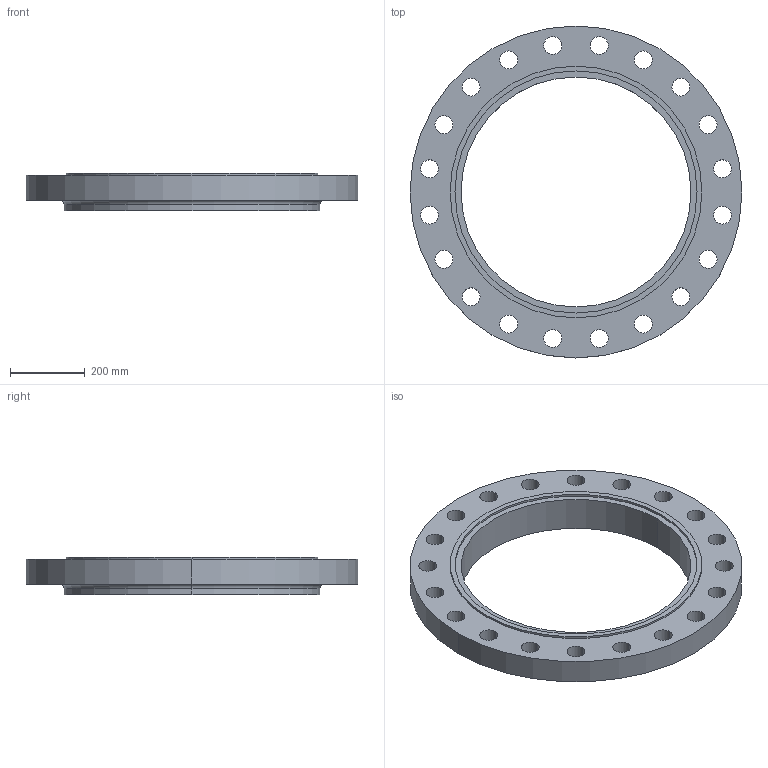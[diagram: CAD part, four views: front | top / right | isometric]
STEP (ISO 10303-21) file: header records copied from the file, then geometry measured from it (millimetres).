
FILE_DESCRIPTION (( 'STEP AP214' ), '1' );
FILE_NAME ('PN40 DN600 Type 12 - Type C Face.STEP', '2018-12-28T23:04:45', ( '' ), ( '' ), 'SwSTEP 2.0', 'SolidWorks 2019', '' );
FILE_SCHEMA (( 'AUTOMOTIVE_DESIGN' ));
Length unit declared in the file: millimetre
Products named in the file (1): PN40 DN600 Type 12 - Type C Face
Bounding box: 890 x 890 x 100 mm (x, y, z)
Volume: 21319619 mm3; surface area: 1216535.6 mm2
Topology: 1 solids, 1 shells, 57 faces, 154 edges, 102 vertices
Faces by surface type: cylinder 50, plane 5, torus 2
Entity records: 1974 total; most frequent: DIRECTION 374, CARTESIAN_POINT 314, ORIENTED_EDGE 308, AXIS2_PLACEMENT_3D 162, EDGE_CURVE 154, CIRCLE 104, EDGE_LOOP 102, VERTEX_POINT 102
